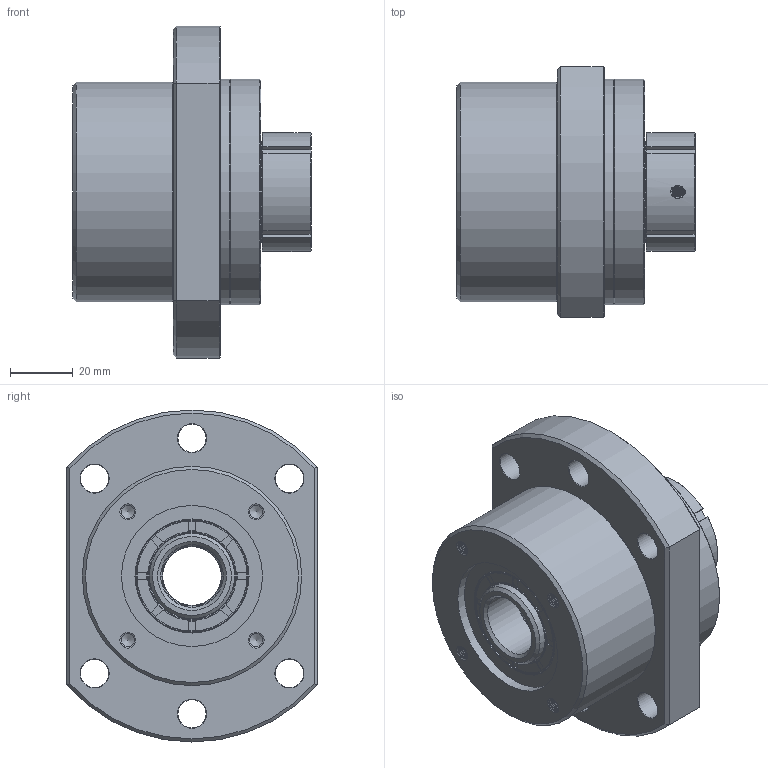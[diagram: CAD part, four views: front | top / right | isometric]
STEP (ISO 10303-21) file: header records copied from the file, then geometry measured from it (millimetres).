
FILE_DESCRIPTION(('STEP AP214'),'1');
FILE_NAME('WBK20DF (2).stp','2016-10-05T11:29:09',(' '),(' '),'Spatial InterOp 3D',' ',' ');
FILE_SCHEMA(('automotive_design'));
Length unit declared in the file: millimetre
Products named in the file (3): Assembly5; WBK20DF_1; WBK20DF
Assembly tree (2 placements, depth 2):
  Assembly5
    WBK20DF_1
    WBK20DF
Bounding box: 76 x 80 x 106 mm (x, y, z)
Volume: 241866.2 mm3; surface area: 65104.8 mm2
Topology: 2 solids, 25 shells, 1059 faces, 2477 edges, 1467 vertices
Faces by surface type: cone 594, plane 230, cylinder 97, torus 82, sphere 56
Full cylindrical faces by diameter (mm): 3.2 x2, 4.2 x8, 5 x6, 6 x6, 6.6 x6, 9 x6, 10 x6, 11 x6, 14 x6, 20 x4, 20.6 x1, 27.2 x6, 28.4 x2, 29.6 x2, 32 x1, 34 x6, 35.2 x2, 36.4 x3, 39.7 x1, 45 x2, 46.4 x1, 47 x4, 69.4 x1, 70 x1, 72 x2
Entity records: 44693 total; most frequent: CARTESIAN_POINT 7637, DIRECTION 4258, ORIENTED_EDGE 3346, STYLED_ITEM 2703, PRESENTATION_STYLE_ASSIGNMENT 2703, COLOUR_RGB 2703, AXIS2_PLACEMENT_3D 1945, EDGE_LOOP 1809
